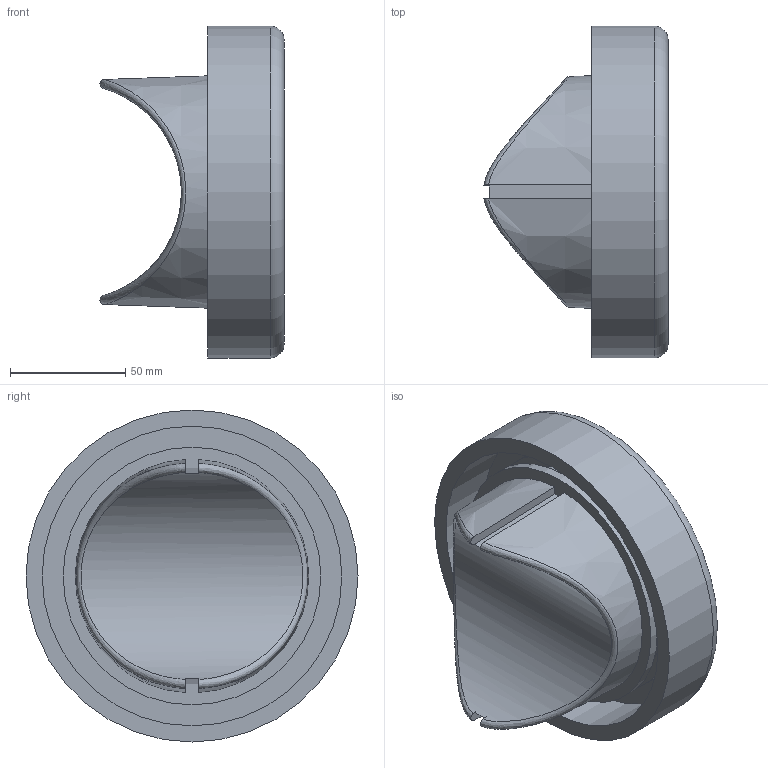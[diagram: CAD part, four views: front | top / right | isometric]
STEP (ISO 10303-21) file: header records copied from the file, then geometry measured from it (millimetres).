
FILE_DESCRIPTION(/* description */ (''),/* implementation_level */ '2;1');
FILE_NAME(/* name */ 'Z:\Geberit\Export\NewStep\367810.stp',/* time_stamp */ '2014-04-02T07:58:38+02:00',/* author */ ('Marco'),/* organization */ (''),/* preprocessor_version */ 'ST-DEVELOPER v15.2',/* originating_system */ 'Autodesk Inventor 2014',/* authorisation */ '');
FILE_SCHEMA (('AUTOMOTIVE_DESIGN { 1 0 10303 214 3 1 1 }'));
Length unit declared in the file: millimetre
Products named in the file (3): 887373; PE Einsatz Einzelteil; 367810
Bounding box: 79.81 x 144 x 144 mm (x, y, z)
Volume: 418715 mm3; surface area: 131579.7 mm2
Topology: 2 solids, 2 shells, 121 faces, 345 edges, 229 vertices
Faces by surface type: plane 74, cylinder 39, cone 5, bspline 2, torus 1
Full cylindrical faces by diameter (mm): 8 x2, 11.95 x1, 12.2 x1, 78 x1, 101.25 x1, 111.75 x2, 130 x1, 144 x1
Entity records: 4701 total; most frequent: CARTESIAN_POINT 1417, DIRECTION 672, ORIENTED_EDGE 662, EDGE_CURVE 329, AXIS2_PLACEMENT_3D 237, VERTEX_POINT 225, LINE 198, VECTOR 198
